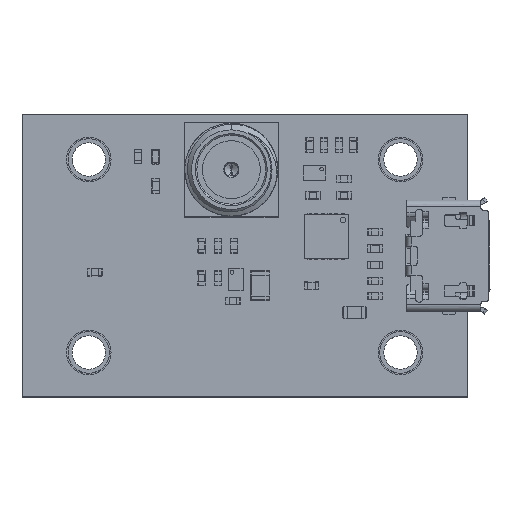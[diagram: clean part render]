
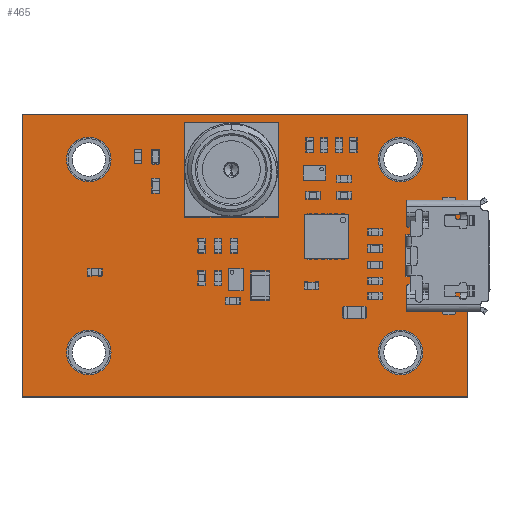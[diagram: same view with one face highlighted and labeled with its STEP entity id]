
A CAD part, top view. The second image highlights one B-rep face of the part: STEP entity #465.
In plain terms, the highlighted planar face has unit normal (0, 0, 1).
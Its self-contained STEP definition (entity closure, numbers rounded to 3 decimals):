
#192 = VERTEX_POINT('',#193);
#193 = CARTESIAN_POINT('',(-15.,-9.5,1.67));
#199 = EDGE_CURVE('',#192,#200,#202,.T.);
#200 = VERTEX_POINT('',#201);
#201 = CARTESIAN_POINT('',(15.,-9.5,1.67));
#202 = LINE('',#203,#204);
#203 = CARTESIAN_POINT('',(-15.,-9.5,1.67));
#204 = VECTOR('',#205,1.);
#205 = DIRECTION('',(1.,0.,0.));
#230 = EDGE_CURVE('',#200,#231,#233,.T.);
#231 = VERTEX_POINT('',#232);
#232 = CARTESIAN_POINT('',(15.,9.5,1.67));
#233 = LINE('',#234,#235);
#234 = CARTESIAN_POINT('',(15.,-9.5,1.67));
#235 = VECTOR('',#236,1.);
#236 = DIRECTION('',(0.,1.,0.));
#261 = EDGE_CURVE('',#231,#262,#264,.T.);
#262 = VERTEX_POINT('',#263);
#263 = CARTESIAN_POINT('',(-15.,9.5,1.67));
#264 = LINE('',#265,#266);
#265 = CARTESIAN_POINT('',(15.,9.5,1.67));
#266 = VECTOR('',#267,1.);
#267 = DIRECTION('',(-1.,0.,0.));
#292 = EDGE_CURVE('',#262,#192,#293,.T.);
#293 = LINE('',#294,#295);
#294 = CARTESIAN_POINT('',(-15.,9.5,1.67));
#295 = VECTOR('',#296,1.);
#296 = DIRECTION('',(0.,-1.,0.));
#316 = VERTEX_POINT('',#317);
#317 = CARTESIAN_POINT('',(-9.,-6.5,1.67));
#323 = EDGE_CURVE('',#316,#316,#324,.T.);
#324 = CIRCLE('',#325,1.5);
#325 = AXIS2_PLACEMENT_3D('',#326,#327,#328);
#326 = CARTESIAN_POINT('',(-10.5,-6.5,1.67));
#327 = DIRECTION('',(0.,0.,1.));
#328 = DIRECTION('',(1.,0.,0.));
#349 = VERTEX_POINT('',#350);
#350 = CARTESIAN_POINT('',(-9.,6.5,1.67));
#356 = EDGE_CURVE('',#349,#349,#357,.T.);
#357 = CIRCLE('',#358,1.5);
#358 = AXIS2_PLACEMENT_3D('',#359,#360,#361);
#359 = CARTESIAN_POINT('',(-10.5,6.5,1.67));
#360 = DIRECTION('',(0.,0.,1.));
#361 = DIRECTION('',(1.,0.,0.));
#382 = VERTEX_POINT('',#383);
#383 = CARTESIAN_POINT('',(12.,-6.5,1.67));
#389 = EDGE_CURVE('',#382,#382,#390,.T.);
#390 = CIRCLE('',#391,1.5);
#391 = AXIS2_PLACEMENT_3D('',#392,#393,#394);
#392 = CARTESIAN_POINT('',(10.5,-6.5,1.67));
#393 = DIRECTION('',(0.,0.,1.));
#394 = DIRECTION('',(1.,0.,0.));
#415 = VERTEX_POINT('',#416);
#416 = CARTESIAN_POINT('',(12.,6.5,1.67));
#422 = EDGE_CURVE('',#415,#415,#423,.T.);
#423 = CIRCLE('',#424,1.5);
#424 = AXIS2_PLACEMENT_3D('',#425,#426,#427);
#425 = CARTESIAN_POINT('',(10.5,6.5,1.67));
#426 = DIRECTION('',(0.,0.,1.));
#427 = DIRECTION('',(1.,0.,0.));
#465 = ADVANCED_FACE('',(#466,#472,#475,#478,#481),#484,.F.);
#466 = FACE_BOUND('',#467,.T.);
#467 = EDGE_LOOP('',(#468,#469,#470,#471));
#468 = ORIENTED_EDGE('',*,*,#199,.T.);
#469 = ORIENTED_EDGE('',*,*,#230,.T.);
#470 = ORIENTED_EDGE('',*,*,#261,.T.);
#471 = ORIENTED_EDGE('',*,*,#292,.T.);
#472 = FACE_BOUND('',#473,.F.);
#473 = EDGE_LOOP('',(#474));
#474 = ORIENTED_EDGE('',*,*,#323,.T.);
#475 = FACE_BOUND('',#476,.F.);
#476 = EDGE_LOOP('',(#477));
#477 = ORIENTED_EDGE('',*,*,#356,.T.);
#478 = FACE_BOUND('',#479,.F.);
#479 = EDGE_LOOP('',(#480));
#480 = ORIENTED_EDGE('',*,*,#389,.T.);
#481 = FACE_BOUND('',#482,.F.);
#482 = EDGE_LOOP('',(#483));
#483 = ORIENTED_EDGE('',*,*,#422,.T.);
#484 = PLANE('',#485);
#485 = AXIS2_PLACEMENT_3D('',#486,#487,#488);
#486 = CARTESIAN_POINT('',(-15.,-9.5,1.67));
#487 = DIRECTION('',(0.,0.,-1.));
#488 = DIRECTION('',(-1.,0.,0.));
